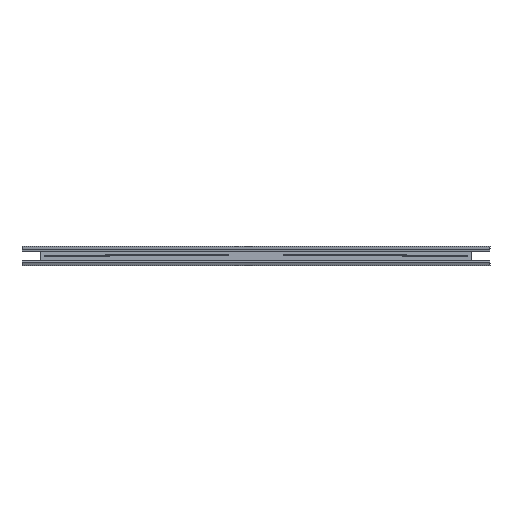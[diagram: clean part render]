
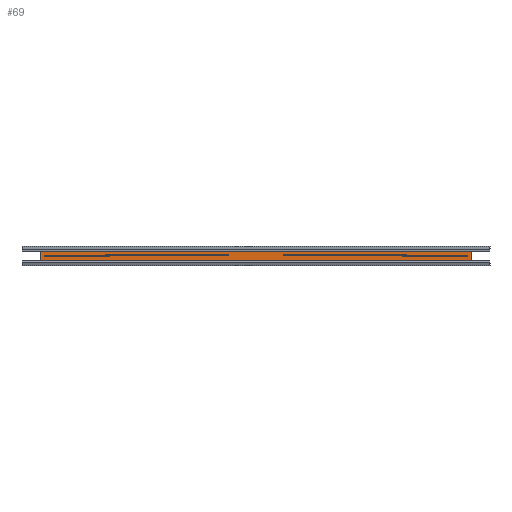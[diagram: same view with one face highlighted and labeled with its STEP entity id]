
A CAD part, top view. The second image highlights one B-rep face of the part: STEP entity #69.
In plain terms, the highlighted planar face has unit normal (0, 0, 1).
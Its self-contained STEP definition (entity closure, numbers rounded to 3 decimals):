
#69=ADVANCED_FACE('',(#95),#356,.T.);
#95=FACE_OUTER_BOUND('',#121,.T.);
#121=EDGE_LOOP('',(#199,#200,#201,#202));
#199=ORIENTED_EDGE('',*,*,#259,.T.);
#200=ORIENTED_EDGE('',*,*,#260,.T.);
#201=ORIENTED_EDGE('',*,*,#261,.F.);
#202=ORIENTED_EDGE('',*,*,#262,.F.);
#259=EDGE_CURVE('',#332,#333,#296,.T.);
#260=EDGE_CURVE('',#333,#334,#297,.T.);
#261=EDGE_CURVE('',#335,#334,#298,.T.);
#262=EDGE_CURVE('',#332,#335,#299,.T.);
#296=B_SPLINE_CURVE_WITH_KNOTS('',1,(#678,#679),.UNSPECIFIED.,.F.,.F.,(2,
2),(-137.128,-116.234),.UNSPECIFIED.);
#297=B_SPLINE_CURVE_WITH_KNOTS('',1,(#680,#681),.UNSPECIFIED.,.F.,.F.,(2,
2),(0.,1104.),.UNSPECIFIED.);
#298=B_SPLINE_CURVE_WITH_KNOTS('',1,(#682,#683),.UNSPECIFIED.,.F.,.F.,(2,
2),(-137.128,-116.234),.UNSPECIFIED.);
#299=B_SPLINE_CURVE_WITH_KNOTS('',1,(#684,#685),.UNSPECIFIED.,.F.,.F.,(2,
2),(0.,1104.),.UNSPECIFIED.);
#332=VERTEX_POINT('',#670);
#333=VERTEX_POINT('',#671);
#334=VERTEX_POINT('',#672);
#335=VERTEX_POINT('',#673);
#356=PLANE('',#478);
#478=AXIS2_PLACEMENT_3D('',#664,#524,$);
#524=DIRECTION('',(0.,0.,1.));
#664=CARTESIAN_POINT('',(552.,-10.447,0.));
#670=CARTESIAN_POINT('',(552.,-10.447,0.));
#671=CARTESIAN_POINT('',(552.,10.447,0.));
#672=CARTESIAN_POINT('',(-552.,10.447,0.));
#673=CARTESIAN_POINT('',(-552.,-10.447,0.));
#678=CARTESIAN_POINT('',(552.,-10.447,0.));
#679=CARTESIAN_POINT('',(552.,10.447,0.));
#680=CARTESIAN_POINT('',(552.,10.447,0.));
#681=CARTESIAN_POINT('',(-552.,10.447,0.));
#682=CARTESIAN_POINT('',(-552.,-10.447,0.));
#683=CARTESIAN_POINT('',(-552.,10.447,0.));
#684=CARTESIAN_POINT('',(552.,-10.447,0.));
#685=CARTESIAN_POINT('',(-552.,-10.447,0.));
